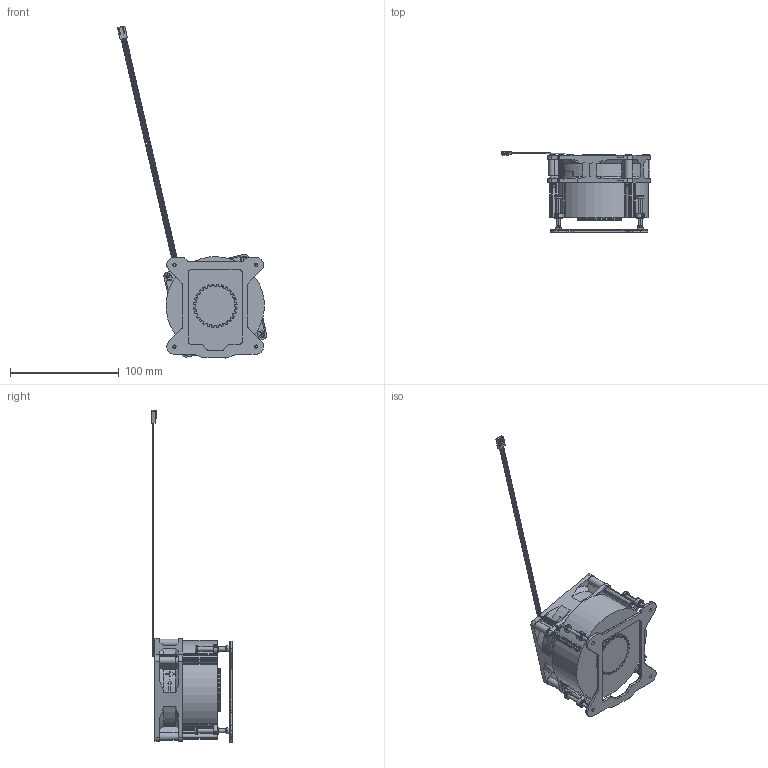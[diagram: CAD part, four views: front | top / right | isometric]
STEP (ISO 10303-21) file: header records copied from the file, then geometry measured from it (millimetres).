
FILE_DESCRIPTION((''),'2;1');
FILE_NAME('RG3219-60E-002_ME_ASM','2022-11-21T',('User'),(''),'PRO/ENGINEER BY PARAMETRIC TECHNOLOGY CORPORATION, 2017170','PRO/ENGINEER BY PARAMETRIC TECHNOLOGY CORPORATION, 2017170','');
FILE_SCHEMA(('CONFIG_CONTROL_DESIGN'));
Length unit declared in the file: millimetre
Products named in the file (21): D90X35_AL_SINK__3; D90_35H_AL_ASSY_ASM_1_ASM; DEAKTOP_SCREW_D7_30_8L_1; E-RING_1; DESKTOP_SCREW_ASSY_ASM_1_ASM; DESKTOP_D90_35H_AL_ASSY_ASM_1_ASM; R8025_20191212_2; FAN_LEAF_1; MANIFOLD_SOLID_BREP_139605; MANIFOLD_SOLID_BREP_139724; MANIFOLD_SOLID_BREP_144183; 4PIN_1_ASM; R128025BUAF325AR_ASM_1_ASM; LABEL_R30_1_1; FAN_SCREW_T3X32MM_1; R128025BUAF325AR_25H_ASSY_ASM_1_ASM; 850-BP1156_1; MYLER_1; 850-BP1156_ASSY__ASM_1_ASM; RG3219-60E_ASM_1_ASM; RG3219-60E-002_ME_ASM
Assembly tree (26 placements, depth 6):
  RG3219-60E-002_ME_ASM
    RG3219-60E_ASM_1_ASM
      DESKTOP_D90_35H_AL_ASSY_ASM_1_ASM
        D90_35H_AL_ASSY_ASM_1_ASM
          D90X35_AL_SINK__3
        DESKTOP_SCREW_ASSY_ASM_1_ASM  x4
          DEAKTOP_SCREW_D7_30_8L_1
          E-RING_1
      R128025BUAF325AR_25H_ASSY_ASM_1_ASM
        R128025BUAF325AR_ASM_1_ASM
          R8025_20191212_2
          FAN_LEAF_1
          4PIN_1_ASM
            MANIFOLD_SOLID_BREP_139605
            MANIFOLD_SOLID_BREP_139724
            MANIFOLD_SOLID_BREP_144183
        LABEL_R30_1_1
        FAN_SCREW_T3X32MM_1  x4
      850-BP1156_ASSY__ASM_1_ASM
        850-BP1156_1
        MYLER_1
Bounding box: 137.08 x 73.9 x 304.86 mm (x, y, z)
Volume: 320496.7 mm3; surface area: 99802.2 mm2
Topology: 20 solids, 25 shells, 3057 faces, 8819 edges, 5877 vertices
Faces by surface type: plane 1933, cylinder 807, extrusion 97, bspline 85, cone 61, torus 54, sphere 20
Entity records: 82805 total; most frequent: CARTESIAN_POINT 24555, ORIENTED_EDGE 12654, DIRECTION 11289, EDGE_CURVE 6333, VECTOR 4345, VERTEX_POINT 4252, LINE 4248, AXIS2_PLACEMENT_3D 3472
